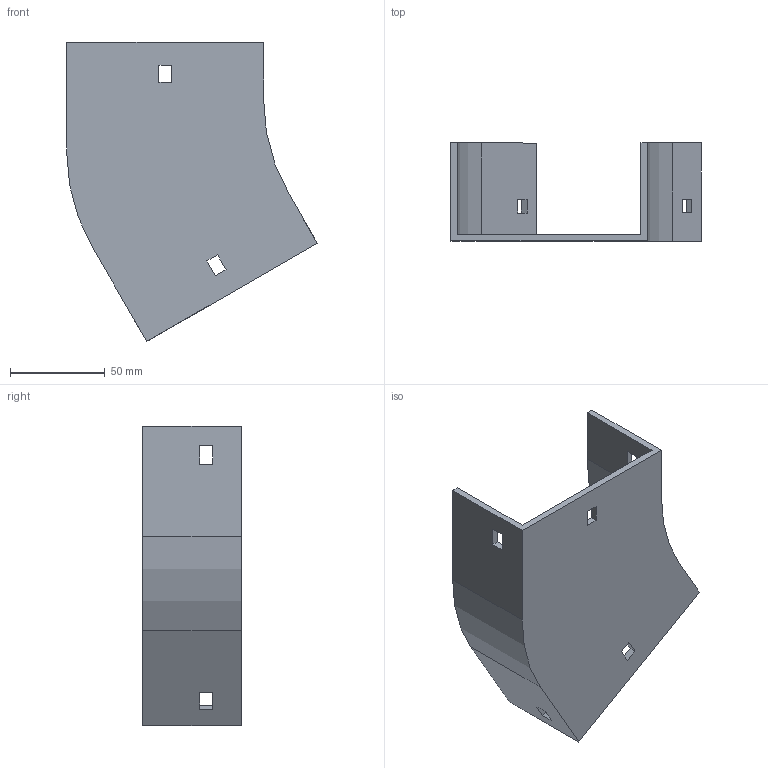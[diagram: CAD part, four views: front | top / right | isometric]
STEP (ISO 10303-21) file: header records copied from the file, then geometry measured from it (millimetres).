
FILE_DESCRIPTION (( 'STEP AP214' ), '1' );
FILE_NAME ('12F1B100.step', '2025-02-21T12:53:59', ( '' ), ( '' ), 'SwSTEP 2.0', 'SolidWorks 2023', '' );
FILE_SCHEMA (( 'AUTOMOTIVE_DESIGN' ));
Length unit declared in the file: millimetre
Products named in the file (1): 12F1B100
Bounding box: 132.4 x 52 x 157.98 mm (x, y, z)
Volume: 97707.6 mm3; surface area: 58914.5 mm2
Topology: 1 solids, 1 shells, 42 faces, 120 edges, 80 vertices
Faces by surface type: plane 38, cylinder 4
Entity records: 1399 total; most frequent: CARTESIAN_POINT 243, ORIENTED_EDGE 240, DIRECTION 214, EDGE_CURVE 120, LINE 112, VECTOR 112, VERTEX_POINT 80, EDGE_LOOP 54
